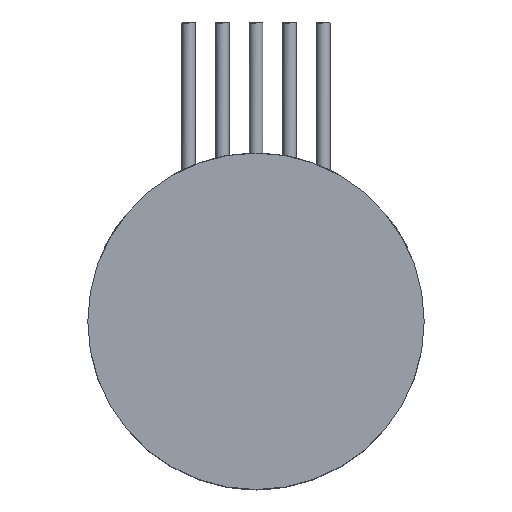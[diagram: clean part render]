
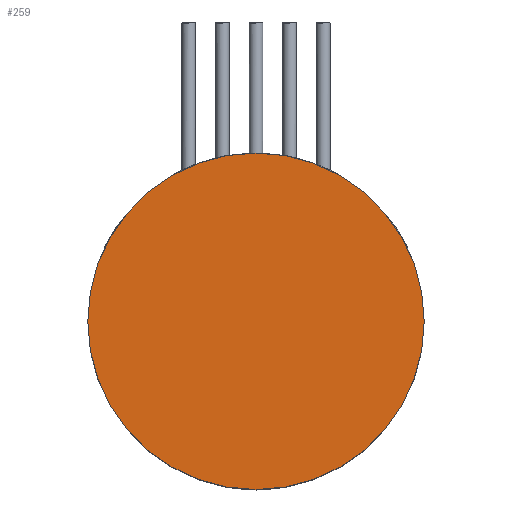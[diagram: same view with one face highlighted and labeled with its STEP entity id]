
A CAD part, top view. The second image highlights one B-rep face of the part: STEP entity #259.
In plain terms, the highlighted planar face has unit normal (0, 0, 1).
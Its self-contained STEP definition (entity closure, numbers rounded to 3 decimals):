
#259=ADVANCED_FACE('',(#541),#542,.F.);
#541=FACE_OUTER_BOUND('',#864,.T.);
#542=PLANE('',#865);
#864=EDGE_LOOP('',(#1316));
#865=AXIS2_PLACEMENT_3D('',#1317,#1318,#1319);
#1316=ORIENTED_EDGE('',*,*,#1699,.F.);
#1317=CARTESIAN_POINT('',(0.0,-4.463,8.25));
#1318=DIRECTION('',(0.0,0.0,-1.0));
#1319=DIRECTION('',(-1.0,0.0,0.0));
#1699=EDGE_CURVE('',#1959,#1959,#1960,.T.);
#1959=VERTEX_POINT('',#2508);
#1960=CIRCLE('',#2509,10.0);
#2508=CARTESIAN_POINT('',(0.,10.0,8.25));
#2509=AXIS2_PLACEMENT_3D('',#3097,#3098,#3099);
#3097=CARTESIAN_POINT('',(0.,0.0,8.25));
#3098=DIRECTION('',(0.,0.,-1.0));
#3099=DIRECTION('',(0.0,1.0,0.));
